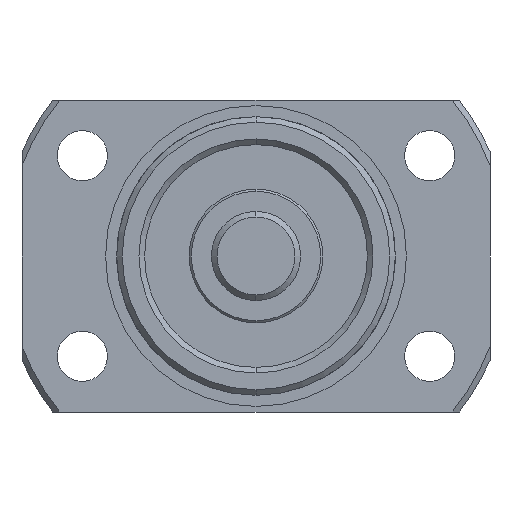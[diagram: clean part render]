
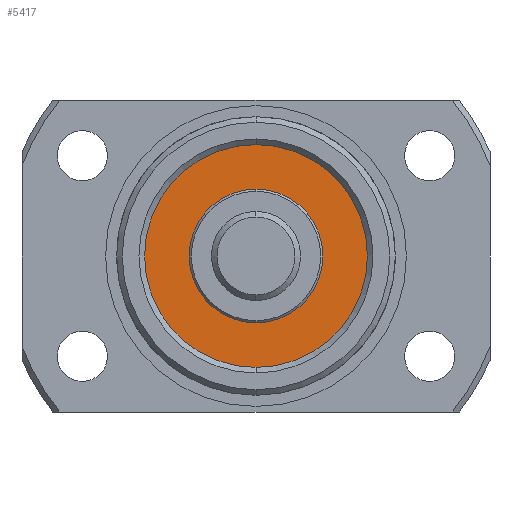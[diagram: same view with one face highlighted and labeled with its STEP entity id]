
A CAD part, left-side view. The second image highlights one B-rep face of the part: STEP entity #5417.
In plain terms, the highlighted planar face has unit normal (-1, 0, 0).
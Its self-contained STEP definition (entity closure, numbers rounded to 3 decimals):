
#3 = CARTESIAN_POINT ( 'NONE',  ( -29.5, 0., -10. ) ) ;
#33 = EDGE_CURVE ( 'NONE', #2203, #2042, #5910, .T. ) ;
#37 = EDGE_CURVE ( 'NONE', #2042, #2203, #5843, .T. ) ;
#47 = EDGE_CURVE ( 'NONE', #1838, #2583, #5879, .T. ) ;
#122 = EDGE_CURVE ( 'NONE', #2583, #1838, #5635, .T. ) ;
#288 = CARTESIAN_POINT ( 'NONE',  ( -29.5, 0., -6. ) ) ;
#380 = CARTESIAN_POINT ( 'NONE',  ( -29.5, 0., 10. ) ) ;
#496 = DIRECTION ( 'NONE',  ( 0., 0., 1. ) ) ;
#569 = CARTESIAN_POINT ( 'NONE',  ( -29.5, 0., 0. ) ) ;
#599 = CARTESIAN_POINT ( 'NONE',  ( -29.5, 0., 0. ) ) ;
#601 = DIRECTION ( 'NONE',  ( -1., 0., 0. ) ) ;
#619 = DIRECTION ( 'NONE',  ( -1., 0., 0. ) ) ;
#621 = DIRECTION ( 'NONE',  ( 0., 0., 1. ) ) ;
#715 = CARTESIAN_POINT ( 'NONE',  ( -29.5, 0., 0. ) ) ;
#716 = DIRECTION ( 'NONE',  ( -1., 0., 0. ) ) ;
#717 = DIRECTION ( 'NONE',  ( 0., 0., 1. ) ) ;
#1146 = DIRECTION ( 'NONE',  ( -1., 0., 0. ) ) ;
#1147 = CARTESIAN_POINT ( 'NONE',  ( -29.5, 0., 0. ) ) ;
#1149 = PLANE ( 'NONE',  #2747 ) ;
#1151 = DIRECTION ( 'NONE',  ( 0., 0., 1. ) ) ;
#1838 = VERTEX_POINT ( 'NONE', #2917 ) ;
#1871 = ORIENTED_EDGE ( 'NONE', *, *, #37, .T. ) ;
#1897 = ORIENTED_EDGE ( 'NONE', *, *, #47, .F. ) ;
#2042 = VERTEX_POINT ( 'NONE', #3 ) ;
#2134 = ORIENTED_EDGE ( 'NONE', *, *, #122, .F. ) ;
#2159 = ORIENTED_EDGE ( 'NONE', *, *, #33, .T. ) ;
#2203 = VERTEX_POINT ( 'NONE', #380 ) ;
#2583 = VERTEX_POINT ( 'NONE', #288 ) ;
#2747 = AXIS2_PLACEMENT_3D ( 'NONE', #1147, #1146, #1151 ) ;
#2917 = CARTESIAN_POINT ( 'NONE',  ( -29.5, 0., 6. ) ) ;
#3347 = AXIS2_PLACEMENT_3D ( 'NONE', #715, #716, #717 ) ;
#3354 = AXIS2_PLACEMENT_3D ( 'NONE', #569, #619, #496 ) ;
#3358 = AXIS2_PLACEMENT_3D ( 'NONE', #599, #601, #621 ) ;
#3402 = AXIS2_PLACEMENT_3D ( 'NONE', #5167, #5177, #5150 ) ;
#3886 = EDGE_LOOP ( 'NONE', ( #1871, #2159 ) ) ;
#3894 = EDGE_LOOP ( 'NONE', ( #2134, #1897 ) ) ;
#4120 = FACE_OUTER_BOUND ( 'NONE', #3886, .T. ) ;
#4410 = FACE_BOUND ( 'NONE', #3894, .T. ) ;
#5150 = DIRECTION ( 'NONE',  ( 0., 0., 1. ) ) ;
#5167 = CARTESIAN_POINT ( 'NONE',  ( -29.5, 0., 0. ) ) ;
#5177 = DIRECTION ( 'NONE',  ( -1., 0., 0. ) ) ;
#5417 = ADVANCED_FACE ( 'NONE', ( #4410, #4120 ), #1149, .T. ) ;
#5635 = CIRCLE ( 'NONE', #3402, 6. ) ;
#5843 = CIRCLE ( 'NONE', #3358, 10. ) ;
#5879 = CIRCLE ( 'NONE', #3347, 6. ) ;
#5910 = CIRCLE ( 'NONE', #3354, 10. ) ;
